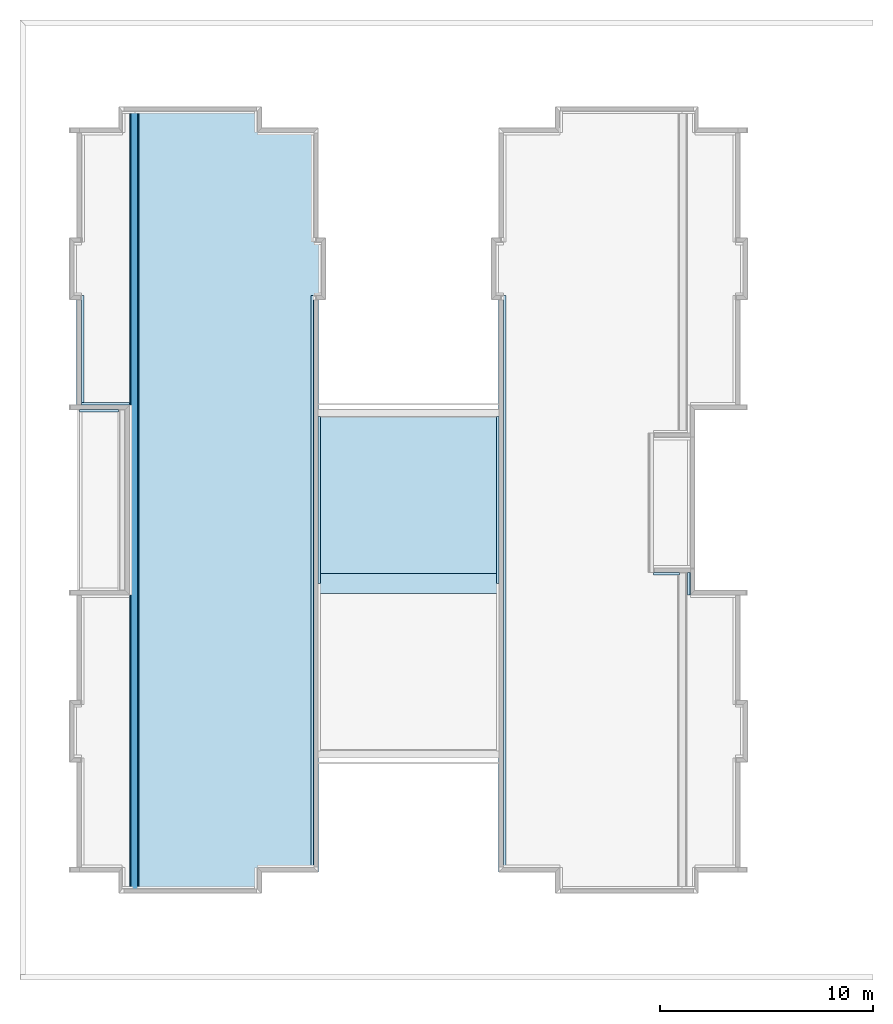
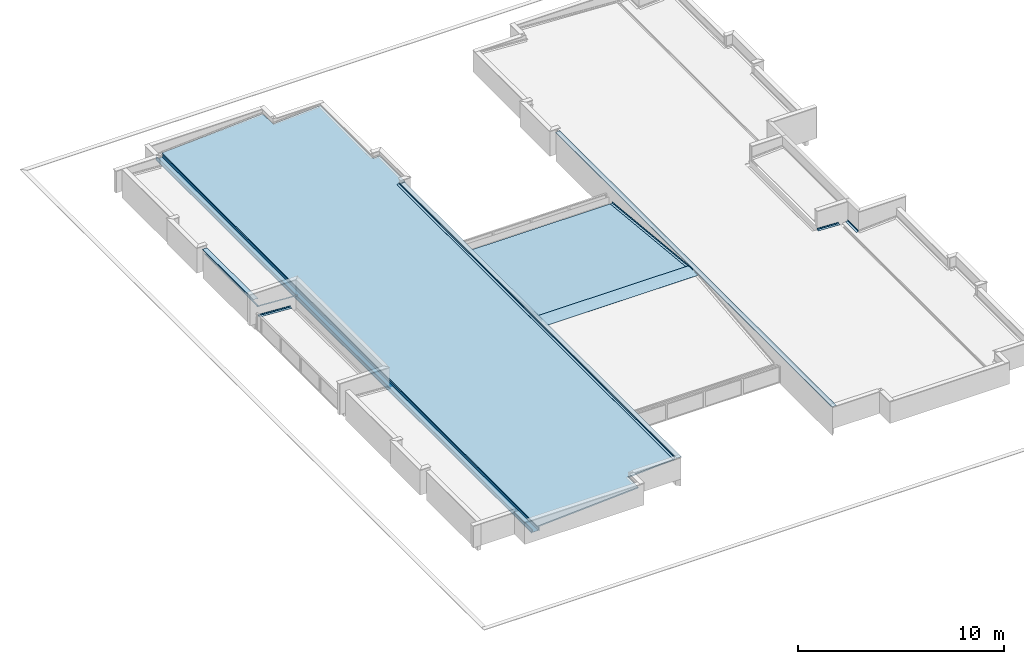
# One storey, part 11 of 25: 16 roofs.
"""IFC4 building model written with IfcOpenShell, lengths in metres."""

from ifc_helpers import new_model, entity, si_unit, converted_unit, derived_unit, direction, frame, origin_with_axes, place, context, subcontext, project, spatial, line, arc, indexed_curve, outline, composite_profile, extrude, clip, halfspace, material, material_profile, profile_set, type_object, element, save


model = new_model("IFC4")

# Units and contexts
model_context = context("Model", 3, precision=1e-05, world=origin_with_axes(), true_north=direction((0.0, 1.0)))
body_context = subcontext(model_context, "Body", "Model", "MODEL_VIEW")
ifc_project = project(units=[si_unit("LENGTHUNIT", "METRE"), si_unit("AREAUNIT", "SQUARE_METRE"), si_unit("VOLUMEUNIT", "CUBIC_METRE"), converted_unit("PLANEANGLEUNIT", "DEGREE", entity("IfcPlaneAngleMeasure", 0.0174532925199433), si_unit("PLANEANGLEUNIT", "RADIAN"), dimensions=[0, 0, 0, 0, 0, 0, 0]), converted_unit("TIMEUNIT", "Year", entity("IfcTimeMeasure", 31557600.0), si_unit("TIMEUNIT", "SECOND"), dimensions=[0, 0, 1, 0, 0, 0, 0]), si_unit("MASSUNIT", "GRAM", prefix="KILO"), si_unit("THERMODYNAMICTEMPERATUREUNIT", "DEGREE_CELSIUS"), si_unit("LUMINOUSINTENSITYUNIT", "LUMEN"), si_unit("ENERGYUNIT", "JOULE", prefix="MEGA"), derived_unit("THERMALCONDUCTANCEUNIT", [(si_unit("POWERUNIT", "WATT"), 1), (si_unit("LENGTHUNIT", "METRE"), -1), (si_unit("THERMODYNAMICTEMPERATUREUNIT", "KELVIN"), -1)]), derived_unit("SPECIFICHEATCAPACITYUNIT", [(si_unit("ENERGYUNIT", "JOULE"), 1), (si_unit("MASSUNIT", "GRAM", prefix="KILO"), -1), (si_unit("THERMODYNAMICTEMPERATUREUNIT", "KELVIN"), -1)]), derived_unit("MASSDENSITYUNIT", [(si_unit("MASSUNIT", "GRAM", prefix="KILO"), 1), (si_unit("VOLUMEUNIT", "CUBIC_METRE"), -1)])], contexts=[model_context])

# Site, building, storey
site_placement = place(None, origin_with_axes())
site = spatial("IfcSite", under=ifc_project, at=site_placement, Name="PADRÃO", CompositionType="ELEMENT")
building_placement = place(site_placement, origin_with_axes())
building = spatial("IfcBuilding", under=site, at=building_placement, Name="CRECHE PRÉ-ESCOLA TIPO 2", CompositionType="ELEMENT")
storey_placement = place(building_placement, frame((0.0, 0.0, 3.26), z_axis=(0.0, 0.0, 1.0), x_axis=(1.0, 0.0, 0.0)))
storey = spatial("IfcBuildingStorey", under=building, at=storey_placement, Name="COBERTURA", CompositionType="ELEMENT", Elevation=3.26)

# Roofs
ifc_material_1 = material(Name="TELHA METÁLICA TERMOACÚSTICA")
roof_type_1 = type_object("IfcRoofType", Name="TELHA METÁLICA TERMOACÚSTICA 70", PredefinedType="NOTDEFINED")
roof_1_placement = place(storey_placement, frame((-34.5396122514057, 4.25013679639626, 0.606411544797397), z_axis=(0.0, 0.0, 1.0), x_axis=(0.0, 1.0, 0.0)))
element("IfcRoof", 1, at=roof_1_placement, inside=storey, type_object=roof_type_1, material=ifc_material_1, Name="Cobert.-004", PredefinedType="NOTDEFINED", context=body_context, shape_type="SweptSolid", body=[
    extrude(outline(indexed_curve([(36.4998642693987, -5.66947835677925), (36.4998642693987, -0.0042), (0.0, -0.00420000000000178), (0.0, -5.66947849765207), (0.999934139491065, -5.66947849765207), (0.999934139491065, -8.32426904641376), (27.8500521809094, -8.32426904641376), (27.8500521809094, -8.67546811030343), (30.3500522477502, -8.67546811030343), (30.3500522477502, -8.32426904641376), (35.4997986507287, -8.32426904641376), (35.4997986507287, -5.66947835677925)], segments=[line(1, 2, 3, 4, 5, 6, 7, 8, 9, 10, 11, 12, 1)])), frame((0.0, 0.0, 0.0), z_axis=(0.0, 0.0598922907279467, 0.998204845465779), x_axis=(1.0, 0.0, 0.0)), (0.0, 0.0, 1.0), 0.07),
])
roof_2_placement = place(storey_placement, frame((-17.5400505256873, 26.4301366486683, 0.352926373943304), z_axis=(0.0, 0.0, 1.0), x_axis=(-1.0, 0.0, 0.0)))
element("IfcRoof", 2, at=roof_2_placement, inside=storey, type_object=roof_type_1, material=ifc_material_1, Name="Cobert.-005", PredefinedType="NOTDEFINED", context=body_context, shape_type="SweptSolid", body=[
    extrude(outline(indexed_curve([(8.50004582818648, 0.007), (8.4999668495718, 7.89962199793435), (0.0, 7.90117785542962), (0.0, 0.007)], segments=[line(1, 2, 3, 4, 1)])), frame((0.0, 0.0, 0.0), z_axis=(0.0, -0.0995037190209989, 0.995037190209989), x_axis=(1.0, 0.0, 0.0)), (0.0, 0.0, 1.0), 0.07),
])
ifc_material_2 = material(Name="RUFO EM CHAPA DE AÇO GALVANIZADO")
ifc_material_profile_1 = material_profile(ifc_material_2, outline(indexed_curve([(-0.123242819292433, 0.0), (-0.123136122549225, -0.000994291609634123), (-0.01, 0.0111462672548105), (-0.01, 0.0811462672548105), (0.000794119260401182, 0.0919771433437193), (8.58116060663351e-05, 0.0926830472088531), (-0.011, 0.0815594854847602), (-0.011, 0.0120446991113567), (-0.123136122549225, 1.14495535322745e-05)], segments=[line(1, 2, 3, 4, 5, 6, 7, 8, 9, 1)])), Name="RUFO EM CHAPA DE AÇO GALVANIZADO")
ifc_profile_set_1 = profile_set([ifc_material_profile_1], Name="FNDE-Rufo")
roof_type_2 = type_object("IfcRoofType", Name="FNDE-Rufo 124 x 94", PredefinedType="NOTDEFINED")
roof_3_placement = place(storey_placement, frame((-9.08529996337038, 19.100155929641, 0.697225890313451), z_axis=(0.0, 0.0, 1.0), x_axis=(0.0, 1.0, 0.0)))
element("IfcRoof", 3, at=roof_3_placement, inside=storey, type_object=roof_type_2, material=ifc_profile_set_1, Name="V01", PredefinedType="NOTDEFINED", context=body_context, shape_type="Clipping", body=[
    clip(clip(extrude(outline(indexed_curve([(-0.123242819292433, 0.0), (-0.123136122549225, -0.000994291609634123), (-0.01, 0.0111462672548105), (-0.01, 0.0811462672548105), (0.000794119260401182, 0.0919771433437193), (8.58116060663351e-05, 0.0926830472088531), (-0.011, 0.0815594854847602), (-0.011, 0.0120446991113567), (-0.123136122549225, 1.14495535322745e-05)], segments=[line(1, 2, 3, 4, 5, 6, 7, 8, 9, 1)])), frame((0.0, 1.21380182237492, 0.0593191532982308), z_axis=(0.0, -0.998807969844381, -0.0488122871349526), x_axis=(1.0, 0.0, 0.0)), (0.0, 0.0, 1.0), 1.22382305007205), halfspace(frame((0.0, 0.0, 0.0), z_axis=(0.0, 1.0, 0.0), x_axis=(0.0, 0.0, 1.0)), True)), halfspace(frame((0.0, 1.20523942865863, 0.0), z_axis=(0.0, -1.0, 0.0), x_axis=(0.0, 0.0, -1.0)), True)),
])
roof_4_placement = place(storey_placement, frame((-8.57057334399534, 18.0501544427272, 0.672070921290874), z_axis=(0.0, 0.0, 1.0), x_axis=(1.0, 0.0, 0.0)))
element("IfcRoof", 4, at=roof_4_placement, inside=storey, type_object=roof_type_2, material=ifc_profile_set_1, Name="V01", PredefinedType="NOTDEFINED", context=body_context, shape_type="SweptSolid", body=[
    extrude(outline(indexed_curve([(-0.123242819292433, 0.0), (-0.123136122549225, -0.000994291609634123), (-0.01, 0.0111462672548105), (-0.01, 0.0811462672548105), (0.000794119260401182, 0.0919771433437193), (8.58116060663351e-05, 0.0926830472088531), (-0.011, 0.0815594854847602), (-0.011, 0.0120446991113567), (-0.123136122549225, 1.14495535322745e-05)], segments=[line(1, 2, 3, 4, 5, 6, 7, 8, 9, 1)])), frame((0.0, 1.05000148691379, 0.0), z_axis=(0.0, -1.0, 0.0), x_axis=(1.0, 0.0, 0.0)), (0.0, 0.0, 1.0), 1.05000148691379),
])
roof_5_placement = place(storey_placement, frame((-37.1436939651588, 26.9500035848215, 0.801382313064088), z_axis=(0.0, 0.0, 1.0), x_axis=(1.0, 0.0, 0.0)))
element("IfcRoof", 5, at=roof_5_placement, inside=storey, type_object=roof_type_2, material=ifc_profile_set_1, Name="V01", PredefinedType="NOTDEFINED", context=body_context, shape_type="SweptSolid", body=[
    extrude(outline(indexed_curve([(-0.123242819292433, 0.0), (-0.123136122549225, -0.000994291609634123), (-0.01, 0.0111462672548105), (-0.01, 0.0811462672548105), (0.000794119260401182, 0.0919771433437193), (8.58116060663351e-05, 0.0926830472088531), (-0.011, 0.0815594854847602), (-0.011, 0.0120446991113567), (-0.123136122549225, 1.14495535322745e-05)], segments=[line(1, 2, 3, 4, 5, 6, 7, 8, 9, 1)])), frame((0.0, 5.14993254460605, 0.0), z_axis=(0.0, 1.0, 0.0), x_axis=(-1.0, 0.0, 0.0)), (0.0, 0.0, -1.0), 5.14993254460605),
])
roof_6_placement = place(storey_placement, frame((-37.1436939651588, 26.9500035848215, 0.801382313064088), z_axis=(0.0, 0.0, 1.0), x_axis=(0.0, -1.0, 0.0)))
element("IfcRoof", 6, at=roof_6_placement, inside=storey, type_object=roof_type_2, material=ifc_profile_set_1, Name="V01", PredefinedType="NOTDEFINED", context=body_context, shape_type="Clipping", body=[
    clip(clip(extrude(outline(indexed_curve([(-0.123242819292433, 0.0), (-0.123136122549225, -0.000994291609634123), (-0.01, 0.0111462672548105), (-0.01, 0.0811462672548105), (0.000794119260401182, 0.0919771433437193), (8.58116060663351e-05, 0.0926830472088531), (-0.011, 0.0815594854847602), (-0.011, 0.0120446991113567), (-0.123136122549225, 1.14495535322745e-05)], segments=[line(1, 2, 3, 4, 5, 6, 7, 8, 9, 1)])), frame((0.0, 2.26113105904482, -0.135667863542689), z_axis=(0.0, -0.998204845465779, 0.0598922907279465), x_axis=(1.0, 0.0, 0.0)), (0.0, 0.0, 1.0), 2.27572232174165), halfspace(frame((0.0, 0.0, 0.0), z_axis=(0.0, 1.0, 0.0), x_axis=(0.0, 0.0, 1.0)), True)), halfspace(frame((0.0, 2.2506250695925, 0.0), z_axis=(0.0, -1.0, 0.0), x_axis=(0.0, 0.0, -1.0)), True)),
])
roof_7_placement = place(storey_placement, frame((-37.2401019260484, 26.750002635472, 0.435007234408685), z_axis=(0.0, 0.0, 1.0), x_axis=(0.0, -1.0, 0.0)))
element("IfcRoof", 7, at=roof_7_placement, inside=storey, type_object=roof_type_2, material=ifc_profile_set_1, Name="V01", PredefinedType="NOTDEFINED", context=body_context, shape_type="Clipping", body=[
    clip(clip(extrude(outline(indexed_curve([(-0.123242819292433, 0.0), (-0.123136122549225, -0.000994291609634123), (-0.01, 0.0111462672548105), (-0.01, 0.0811462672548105), (0.000794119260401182, 0.0919771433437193), (8.58116060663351e-05, 0.0926830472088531), (-0.011, 0.0815594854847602), (-0.011, 0.0120446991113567), (-0.123136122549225, 1.14495535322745e-05)], segments=[line(1, 2, 3, 4, 5, 6, 7, 8, 9, 1)])), frame((0.0, 1.84510533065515, -0.109982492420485), z_axis=(0.0, 0.998228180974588, -0.0595020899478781), x_axis=(-1.0, 0.0, 0.0)), (0.0, 0.0, -1.0), 1.85883639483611), halfspace(frame((0.0, 0.0, 0.0), z_axis=(0.0, 1.0, 0.0), x_axis=(0.0, 0.0, 1.0)), True)), halfspace(frame((0.0, 1.8346677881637, 0.0), z_axis=(0.0, -1.0, 0.0), x_axis=(0.0, 0.0, -1.0)), True)),
])
roof_8_placement = place(storey_placement, frame((-17.3400506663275, 32.1001883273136, 1.17333038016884), z_axis=(0.0, 0.0, 1.0), x_axis=(-0.999999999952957, -9.69983402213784e-06, 0.0)))
element("IfcRoof", 8, at=roof_8_placement, inside=storey, type_object=roof_type_2, material=ifc_profile_set_1, Name="V02", PredefinedType="NOTDEFINED", context=body_context, shape_type="Clipping", body=[
    clip(clip(extrude(outline(indexed_curve([(-0.123242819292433, 0.0), (-0.123136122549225, -0.000994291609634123), (-0.01, 0.0111462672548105), (-0.01, 0.0811462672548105), (0.000794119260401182, 0.0919771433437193), (8.58116060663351e-05, 0.0926830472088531), (-0.011, 0.0815594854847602), (-0.011, 0.0120446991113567), (-0.123136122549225, 1.14495535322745e-05)], segments=[line(1, 2, 3, 4, 5, 6, 7, 8, 9, 1)])), frame((0.0, 26.8499971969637, 0.00422564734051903), z_axis=(0.0, -0.999999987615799, -0.000157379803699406), x_axis=(1.0, 0.0, 0.0)), (0.0, 0.0, 1.0), 26.8500251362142), halfspace(frame((0.0, 0.0, 0.0), z_axis=(0.0, 1.0, 0.0), x_axis=(0.0, 0.0, 1.0)), True)), halfspace(frame((0.0, 26.8499695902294, 0.0), z_axis=(0.0, -1.0, 0.0), x_axis=(0.0, 0.0, -1.0)), True)),
])
roof_9_placement = place(storey_placement, frame((-26.0400963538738, 26.4301366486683, 0.423275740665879), z_axis=(0.0, 0.0, 1.0), x_axis=(-0.999999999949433, -1.00565471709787e-05, 0.0)))
element("IfcRoof", 9, at=roof_9_placement, inside=storey, type_object=roof_type_2, material=ifc_profile_set_1, Name="V09", PredefinedType="NOTDEFINED", context=body_context, shape_type="Clipping", body=[
    clip(clip(extrude(outline(indexed_curve([(-0.123242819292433, 0.0), (-0.123136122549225, -0.000994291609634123), (-0.01, 0.0111462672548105), (-0.01, 0.0811462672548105), (0.000794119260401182, 0.0919771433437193), (8.58116060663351e-05, 0.0926830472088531), (-0.011, 0.0815594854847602), (-0.011, 0.0120446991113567), (-0.123136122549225, 1.14495535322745e-05)], segments=[line(1, 2, 3, 4, 5, 6, 7, 8, 9, 1)])), frame((0.0, 7.86828593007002, 0.786983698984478), z_axis=(0.0, -0.995035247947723, -0.0995231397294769), x_axis=(1.0, 0.0, 0.0)), (0.0, 0.0, 1.0), 7.92508985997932), halfspace(frame((0.0, 0.0, 0.0), z_axis=(0.0, 1.0, 0.0), x_axis=(0.0, 0.0, 1.0)), True)), halfspace(frame((0.0, 7.85082810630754, 0.0), z_axis=(0.0, -1.0, 0.0), x_axis=(0.0, 0.0, -1.0)), True)),
])
roof_10_placement = place(storey_placement, frame((-26.2385567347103, 5.25000111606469, 1.17167117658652), z_axis=(0.0, 0.0, 1.0), x_axis=(0.999999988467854, -0.00015186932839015, 0.0)))
element("IfcRoof", 10, at=roof_10_placement, inside=storey, type_object=roof_type_2, material=ifc_profile_set_1, Name="V11", PredefinedType="NOTDEFINED", context=body_context, shape_type="Clipping", body=[
    clip(clip(extrude(outline(indexed_curve([(-0.123242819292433, 0.0), (-0.123136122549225, -0.000994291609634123), (-0.01, 0.0111462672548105), (-0.01, 0.0811462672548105), (0.000794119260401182, 0.0919771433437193), (8.58116060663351e-05, 0.0926830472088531), (-0.011, 0.0815594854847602), (-0.011, 0.0120446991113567), (-0.123136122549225, 1.14495535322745e-05)], segments=[line(1, 2, 3, 4, 5, 6, 7, 8, 9, 1)])), frame((0.0, 26.8502089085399, 0.00317425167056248), z_axis=(0.0, -0.999999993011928, -0.000118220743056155), x_axis=(1.0, 0.0, 0.0)), (0.0, 0.0, 1.0), 26.8502298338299), halfspace(frame((0.0, 0.0, 0.0), z_axis=(0.0, 1.0, 0.0), x_axis=(0.0, 0.0, 1.0)), True)), halfspace(frame((0.0, 26.8501881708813, 0.0), z_axis=(0.0, -1.0, 0.0), x_axis=(0.0, 0.0, -1.0)), True)),
])
roof_11_placement = place(storey_placement, frame((-17.5400505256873, 18.5751360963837, 1.20877555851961), z_axis=(0.0, 0.0, 1.0), x_axis=(1.0, 0.0, 0.0)))
element("IfcRoof", 11, at=roof_11_placement, inside=storey, type_object=roof_type_2, material=ifc_profile_set_1, Name="V08", PredefinedType="NOTDEFINED", context=body_context, shape_type="Clipping", body=[
    clip(clip(extrude(outline(indexed_curve([(-0.123242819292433, 0.0), (-0.123136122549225, -0.000994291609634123), (-0.01, 0.0111462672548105), (-0.01, 0.0811462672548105), (0.000794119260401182, 0.0919771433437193), (8.58116060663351e-05, 0.0926830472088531), (-0.011, 0.0815594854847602), (-0.011, 0.0120446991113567), (-0.123136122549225, 1.14495535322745e-05)], segments=[line(1, 2, 3, 4, 5, 6, 7, 8, 9, 1)])), frame((0.0, 7.87245496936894, -0.787245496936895), z_axis=(0.0, -0.995037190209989, 0.099503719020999), x_axis=(1.0, 0.0, 0.0)), (0.0, 0.0, 1.0), 7.92926079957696), halfspace(frame((0.0, 0.0, 0.0), z_axis=(0.0, 1.0, 0.0), x_axis=(0.0, 0.0, 1.0)), True)), halfspace(frame((0.0, 7.85500055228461, 0.0), z_axis=(0.0, -1.0, 0.0), x_axis=(0.0, 0.0, -1.0)), True)),
])
ifc_material_3 = material(Name="PINGADEIRA EM CHAPA DE AÇO GALVANIZADO")
ifc_material_profile_2 = material_profile(ifc_material_3, outline(indexed_curve([(0.00496259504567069, -0.0184313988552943), (0.0250000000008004, -0.03), (0.0250000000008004, 0.01), (-0.225020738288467, 0.01), (-0.22503740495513, -0.03), (-0.205, -0.0184313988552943), (-0.2055, -0.0175653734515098), (-0.224036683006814, -0.0282675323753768), (-0.224021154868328, 0.009), (0.0240000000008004, 0.009), (0.0240000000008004, -0.0282679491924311), (0.00546259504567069, -0.0175653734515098)], segments=[line(1, 2, 3, 4, 5, 6, 7, 8, 9, 10, 11, 12, 1)])), Name="PINGADEIRA EM CHAPA DE AÇO GALVANIZADO")
ifc_profile_set_2 = profile_set([ifc_material_profile_2], Name="FNDE-Pingadeira em chapa de aço galvanizado")
roof_type_3 = type_object("IfcRoofType", Name="FNDE-Pingadeira em chapa de aço galvanizado 250 x 40", PredefinedType="NOTDEFINED")
roof_12_placement = place(storey_placement, frame((-37.3401040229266, 31.9000019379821, 1.31), z_axis=(0.0, 0.0, 1.0), x_axis=(-0.999999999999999, -3.33213644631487e-08, 0.0)))
element("IfcRoof", 12, at=roof_12_placement, inside=storey, type_object=roof_type_3, material=ifc_profile_set_2, Name="V01", PredefinedType="NOTDEFINED", context=body_context, shape_type="SweptSolid", body=[
    extrude(outline(indexed_curve([(0.00496259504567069, -0.0184313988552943), (0.0250000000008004, -0.03), (0.0250000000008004, 0.01), (-0.225020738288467, 0.01), (-0.22503740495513, -0.03), (-0.205, -0.0184313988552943), (-0.2055, -0.0175653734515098), (-0.224036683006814, -0.0282675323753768), (-0.224021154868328, 0.009), (0.0240000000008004, 0.009), (0.0240000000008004, -0.0282679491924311), (0.00546259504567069, -0.0175653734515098)], segments=[line(1, 2, 3, 4, 5, 6, 7, 8, 9, 10, 11, 12, 1)])), frame((0.0, 4.94999930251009, 0.0), z_axis=(0.0, -1.0, 0.0), x_axis=(1.0, 0.0, 0.0)), (0.0, 0.0, 1.0), 4.94999930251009),
])
roof_13_placement = place(storey_placement, frame((-26.0400963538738, 5.04997841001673, 1.31), z_axis=(0.0, 0.0, 1.0), x_axis=(1.0, 0.0, 0.0)))
element("IfcRoof", 13, at=roof_13_placement, inside=storey, type_object=roof_type_3, material=ifc_profile_set_2, Name="V03", PredefinedType="NOTDEFINED", context=body_context, shape_type="SweptSolid", body=[
    extrude(outline(indexed_curve([(0.00496259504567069, -0.0184313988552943), (0.0250000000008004, -0.03), (0.0250000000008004, 0.01), (-0.225020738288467, 0.01), (-0.22503740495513, -0.03), (-0.205, -0.0184313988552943), (-0.2055, -0.0175653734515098), (-0.224036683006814, -0.0282675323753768), (-0.224021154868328, 0.009), (0.0240000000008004, 0.009), (0.0240000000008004, -0.0282679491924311), (0.00546259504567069, -0.0175653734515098)], segments=[line(1, 2, 3, 4, 5, 6, 7, 8, 9, 10, 11, 12, 1)])), frame((0.0, 26.8502105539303, 0.0), z_axis=(0.0, -1.0, 0.0), x_axis=(1.0, 0.0, 0.0)), (0.0, 0.0, 1.0), 26.8502105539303),
])
roof_14_placement = place(storey_placement, frame((-17.5400505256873, 31.9001883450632, 1.31), z_axis=(0.0, 0.0, 1.0), x_axis=(-1.0, 0.0, 0.0)))
element("IfcRoof", 14, at=roof_14_placement, inside=storey, type_object=roof_type_3, material=ifc_profile_set_2, Name="V02", PredefinedType="NOTDEFINED", context=body_context, shape_type="SweptSolid", body=[
    extrude(outline(indexed_curve([(0.00496259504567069, -0.0184313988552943), (0.0250000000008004, -0.03), (0.0250000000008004, 0.01), (-0.225020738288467, 0.01), (-0.22503740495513, -0.03), (-0.205, -0.0184313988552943), (-0.2055, -0.0175653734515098), (-0.224036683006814, -0.0282675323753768), (-0.224021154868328, 0.009), (0.0240000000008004, 0.009), (0.0240000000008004, -0.0282679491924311), (0.00546259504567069, -0.0175653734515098)], segments=[line(1, 2, 3, 4, 5, 6, 7, 8, 9, 10, 11, 12, 1)])), frame((0.0, 26.8500324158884, 0.0), z_axis=(0.0, -1.0, 0.0), x_axis=(1.0, 0.0, 0.0)), (0.0, 0.0, 1.0), 26.8500324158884),
])
ifc_material_4 = material(Name="CUMEEIRA")
ifc_material_profile_3 = material_profile(ifc_material_4, outline(indexed_curve([(-0.467490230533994, -0.0228391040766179), (0.0, 0.00500886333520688), (0.467490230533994, -0.022839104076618), (0.467787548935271, -0.0178479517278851), (0.0, 0.0100177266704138), (-0.467787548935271, -0.017847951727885)], segments=[line(1, 2, 3, 4, 5, 6, 1)])), Name="CUMEEIRA")
ifc_profile_set_3 = profile_set([ifc_material_profile_3], Name="FNDE-Cumeeira")
roof_type_4 = type_object("IfcRoofType", Name="FNDE-Cumeeira 936 x 33", PredefinedType="NOTDEFINED")
roof_15_placement = place(storey_placement, frame((-26.0400173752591, 18.5766842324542, 1.20877555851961), z_axis=(0.0, 0.0, 1.0), x_axis=(-0.000182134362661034, -0.999999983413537, 0.0)))
element("IfcRoof", 15, at=roof_15_placement, inside=storey, type_object=roof_type_4, material=ifc_profile_set_3, Name="V05", PredefinedType="NOTDEFINED", context=body_context, shape_type="SweptSolid", body=[
    extrude(outline(indexed_curve([(-0.467490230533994, -0.0228391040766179), (0.0, 0.00500886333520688), (0.467490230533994, -0.022839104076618), (0.467787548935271, -0.0178479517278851), (0.0, 0.0100177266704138), (-0.467787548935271, -0.017847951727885)], segments=[line(1, 2, 3, 4, 5, 6, 1)])), frame((0.0, 8.49996699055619, 0.0), z_axis=(0.0, -1.0, 0.0), x_axis=(1.0, 0.0, 0.0)), (0.0, 0.0, 1.0), 8.49996699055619),
])
ifc_material_5 = material(Name="CALHA EM CHAPA DE AÇO GALVANIZADO")
ifc_material_profile_4 = material_profile(ifc_material_5, outline(indexed_curve([(0.201344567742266, -0.0546026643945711), (0.211344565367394, -0.0546026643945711), (0.211344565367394, -0.0254650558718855), (0.201344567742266, -0.0254649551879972)], segments=[line(1, 2, 3, 4, 1)])), Name="CALHA EM CHAPA DE AÇO GALVANIZADO 1")
ifc_material_profile_5 = material_profile(ifc_material_5, outline(indexed_curve([(0.211344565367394, 0.170194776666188), (0.201344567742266, 0.170194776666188), (0.201344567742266, -0.000467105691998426), (0.211344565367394, -0.000467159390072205)], segments=[line(1, 2, 3, 4, 1)])), Name="CALHA EM CHAPA DE AÇO GALVANIZADO 1")
ifc_material_profile_6 = material_profile(ifc_material_5, outline(indexed_curve([(-0.210177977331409, -0.0642311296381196), (-0.200177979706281, -0.0642311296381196), (-0.200177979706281, -0.0254630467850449), (-0.210177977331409, -0.0254630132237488)], segments=[line(1, 2, 3, 4, 1)])), Name="CALHA EM CHAPA DE AÇO GALVANIZADO 2")
ifc_material_profile_7 = material_profile(ifc_material_5, outline(indexed_curve([(-0.200177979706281, 0.160718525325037), (-0.210177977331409, 0.160718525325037), (-0.210177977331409, -0.00046508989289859), (-0.200177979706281, -0.000465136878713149)], segments=[line(1, 2, 3, 4, 1)])), Name="CALHA EM CHAPA DE AÇO GALVANIZADO 2")
ifc_material_profile_8 = material_profile(ifc_material_5, outline(indexed_curve([(-0.189999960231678, 0.146532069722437), (-0.189999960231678, -0.000465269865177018), (-0.187999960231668, -0.000465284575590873), (-0.187999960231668, 0.146532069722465), (-0.187707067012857, 0.147239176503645), (-0.186999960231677, 0.147532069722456), (-0.177673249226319, 0.147532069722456), (-0.177032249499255, 0.147299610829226), (-0.176689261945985, 0.146710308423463), (-0.152008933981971, -0.000465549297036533), (-0.15, -0.000465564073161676), (-0.174704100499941, 0.146960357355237), (-0.175709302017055, 0.148799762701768), (-0.177673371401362, 0.149532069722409), (-0.186999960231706, 0.149532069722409), (-0.189121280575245, 0.148653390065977)], segments=[line(1, 2, 3, 4), arc(4, 5, 6), line(6, 7), arc(7, 8, 9), line(9, 10, 11, 12), arc(12, 13, 14), line(14, 15), arc(15, 16, 1)])), Name="CALHA EM CHAPA DE AÇO GALVANIZADO 3")
ifc_material_profile_9 = material_profile(ifc_material_5, outline(indexed_curve([(-0.225177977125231, -0.000465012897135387), (-0.225177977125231, -0.0254629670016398), (-0.210177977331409, -0.0254630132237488), (-0.200177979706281, -0.0254630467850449), (-0.0475010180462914, -0.0254635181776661), (0.0475010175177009, -0.0254635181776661), (0.201344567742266, -0.0254649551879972), (0.211344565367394, -0.0254650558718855), (0.225273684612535, -0.0254651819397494), (0.225273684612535, -0.000467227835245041), (0.211344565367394, -0.000467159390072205), (0.201344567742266, -0.000467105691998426), (0.189999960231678, -0.000465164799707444), (0.187999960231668, -0.000465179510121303), (0.152008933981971, -0.000465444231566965), (0.15, -0.000465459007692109), (-0.15, -0.000465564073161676), (-0.152008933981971, -0.000465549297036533), (-0.187999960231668, -0.000465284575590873), (-0.189999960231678, -0.000465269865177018), (-0.200177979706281, -0.000465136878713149), (-0.210177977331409, -0.00046508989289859)], segments=[line(1, 2, 3, 4, 5, 6, 7, 8, 9, 10, 11, 12, 13, 14, 15, 16, 17, 18, 19, 20, 21, 22, 1)])), Name="CALHA EM CHAPA DE AÇO GALVANIZADO 4")
ifc_material_profile_10 = material_profile(ifc_material_5, outline(indexed_curve([(0.186999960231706, 0.149532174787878), (0.177673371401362, 0.149532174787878), (0.175709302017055, 0.148799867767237), (0.174704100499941, 0.146960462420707), (0.15, -0.000465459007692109), (0.152008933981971, -0.000465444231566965), (0.176689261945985, 0.146710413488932), (0.177032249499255, 0.147299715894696), (0.177673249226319, 0.147532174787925), (0.186999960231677, 0.147532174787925), (0.187707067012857, 0.147239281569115), (0.187999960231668, 0.146532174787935), (0.187999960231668, -0.000465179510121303), (0.189999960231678, -0.000465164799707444), (0.189999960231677, 0.146532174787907), (0.189121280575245, 0.148653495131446)], segments=[line(1, 2), arc(2, 3, 4), line(4, 5, 6, 7), arc(7, 8, 9), line(9, 10), arc(10, 11, 12), line(12, 13, 14, 15), arc(15, 16, 1)])), Name="CALHA EM CHAPA DE AÇO GALVANIZADO 5")
ifc_profile_set_4 = profile_set([ifc_material_profile_4, ifc_material_profile_5, ifc_material_profile_6, ifc_material_profile_7, ifc_material_profile_8, ifc_material_profile_9, ifc_material_profile_10], Name="FNDE-Calha", composite=composite_profile([outline(indexed_curve([(0.201344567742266, -0.0546026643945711), (0.211344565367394, -0.0546026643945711), (0.211344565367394, -0.0254650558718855), (0.201344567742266, -0.0254649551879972)], segments=[line(1, 2, 3, 4, 1)])), outline(indexed_curve([(0.211344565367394, 0.170194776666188), (0.201344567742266, 0.170194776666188), (0.201344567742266, -0.000467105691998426), (0.211344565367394, -0.000467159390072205)], segments=[line(1, 2, 3, 4, 1)])), outline(indexed_curve([(-0.210177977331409, -0.0642311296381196), (-0.200177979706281, -0.0642311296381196), (-0.200177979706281, -0.0254630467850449), (-0.210177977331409, -0.0254630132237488)], segments=[line(1, 2, 3, 4, 1)])), outline(indexed_curve([(-0.200177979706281, 0.160718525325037), (-0.210177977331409, 0.160718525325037), (-0.210177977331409, -0.00046508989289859), (-0.200177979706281, -0.000465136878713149)], segments=[line(1, 2, 3, 4, 1)])), outline(indexed_curve([(-0.189999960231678, 0.146532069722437), (-0.189999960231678, -0.000465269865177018), (-0.187999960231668, -0.000465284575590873), (-0.187999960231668, 0.146532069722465), (-0.187707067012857, 0.147239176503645), (-0.186999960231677, 0.147532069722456), (-0.177673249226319, 0.147532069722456), (-0.177032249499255, 0.147299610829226), (-0.176689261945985, 0.146710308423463), (-0.152008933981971, -0.000465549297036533), (-0.15, -0.000465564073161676), (-0.174704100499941, 0.146960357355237), (-0.175709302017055, 0.148799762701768), (-0.177673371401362, 0.149532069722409), (-0.186999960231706, 0.149532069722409), (-0.189121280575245, 0.148653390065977)], segments=[line(1, 2, 3, 4), arc(4, 5, 6), line(6, 7), arc(7, 8, 9), line(9, 10, 11, 12), arc(12, 13, 14), line(14, 15), arc(15, 16, 1)])), outline(indexed_curve([(-0.225177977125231, -0.000465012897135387), (-0.225177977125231, -0.0254629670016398), (-0.210177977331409, -0.0254630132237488), (-0.200177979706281, -0.0254630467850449), (-0.0475010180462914, -0.0254635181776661), (0.0475010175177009, -0.0254635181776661), (0.201344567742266, -0.0254649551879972), (0.211344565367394, -0.0254650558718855), (0.225273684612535, -0.0254651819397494), (0.225273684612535, -0.000467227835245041), (0.211344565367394, -0.000467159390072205), (0.201344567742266, -0.000467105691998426), (0.189999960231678, -0.000465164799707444), (0.187999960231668, -0.000465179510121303), (0.152008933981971, -0.000465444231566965), (0.15, -0.000465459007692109), (-0.15, -0.000465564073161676), (-0.152008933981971, -0.000465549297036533), (-0.187999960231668, -0.000465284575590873), (-0.189999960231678, -0.000465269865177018), (-0.200177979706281, -0.000465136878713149), (-0.210177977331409, -0.00046508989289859)], segments=[line(1, 2, 3, 4, 5, 6, 7, 8, 9, 10, 11, 12, 13, 14, 15, 16, 17, 18, 19, 20, 21, 22, 1)])), outline(indexed_curve([(0.186999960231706, 0.149532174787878), (0.177673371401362, 0.149532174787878), (0.175709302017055, 0.148799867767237), (0.174704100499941, 0.146960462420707), (0.15, -0.000465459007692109), (0.152008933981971, -0.000465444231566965), (0.176689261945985, 0.146710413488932), (0.177032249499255, 0.147299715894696), (0.177673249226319, 0.147532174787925), (0.186999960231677, 0.147532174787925), (0.187707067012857, 0.147239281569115), (0.187999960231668, 0.146532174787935), (0.187999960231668, -0.000465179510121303), (0.189999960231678, -0.000465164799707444), (0.189999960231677, 0.146532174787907), (0.189121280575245, 0.148653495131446)], segments=[line(1, 2), arc(2, 3, 4), line(4, 5, 6, 7), arc(7, 8, 9), line(9, 10), arc(10, 11, 12), line(12, 13, 14, 15), arc(15, 16, 1)]))]))
roof_type_5 = type_object("IfcRoofType", Name="FNDE-Calha 450 x 234", PredefinedType="NOTDEFINED")
roof_16_placement = place(storey_placement, frame((-34.6560542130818, 4.25015619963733, 0.41521913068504), z_axis=(0.0, 0.0, 1.0), x_axis=(1.0, 0.0, 0.0)))
element("IfcRoof", 16, at=roof_16_placement, inside=storey, type_object=roof_type_5, material=ifc_profile_set_4, Name="V01", PredefinedType="NOTDEFINED", context=body_context, shape_type="SweptSolid", body=[
    extrude(composite_profile([outline(indexed_curve([(0.201344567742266, -0.0546026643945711), (0.211344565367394, -0.0546026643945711), (0.211344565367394, -0.0254650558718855), (0.201344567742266, -0.0254649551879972)], segments=[line(1, 2, 3, 4, 1)])), outline(indexed_curve([(0.211344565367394, 0.170194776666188), (0.201344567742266, 0.170194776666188), (0.201344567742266, -0.000467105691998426), (0.211344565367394, -0.000467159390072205)], segments=[line(1, 2, 3, 4, 1)])), outline(indexed_curve([(-0.210177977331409, -0.0642311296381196), (-0.200177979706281, -0.0642311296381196), (-0.200177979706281, -0.0254630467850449), (-0.210177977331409, -0.0254630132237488)], segments=[line(1, 2, 3, 4, 1)])), outline(indexed_curve([(-0.200177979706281, 0.160718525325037), (-0.210177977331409, 0.160718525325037), (-0.210177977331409, -0.00046508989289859), (-0.200177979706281, -0.000465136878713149)], segments=[line(1, 2, 3, 4, 1)])), outline(indexed_curve([(-0.189999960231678, 0.146532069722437), (-0.189999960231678, -0.000465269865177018), (-0.187999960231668, -0.000465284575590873), (-0.187999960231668, 0.146532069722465), (-0.187707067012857, 0.147239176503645), (-0.186999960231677, 0.147532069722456), (-0.177673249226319, 0.147532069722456), (-0.177032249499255, 0.147299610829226), (-0.176689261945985, 0.146710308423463), (-0.152008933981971, -0.000465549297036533), (-0.15, -0.000465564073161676), (-0.174704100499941, 0.146960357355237), (-0.175709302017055, 0.148799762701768), (-0.177673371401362, 0.149532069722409), (-0.186999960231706, 0.149532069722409), (-0.189121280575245, 0.148653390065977)], segments=[line(1, 2, 3, 4), arc(4, 5, 6), line(6, 7), arc(7, 8, 9), line(9, 10, 11, 12), arc(12, 13, 14), line(14, 15), arc(15, 16, 1)])), outline(indexed_curve([(-0.225177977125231, -0.000465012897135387), (-0.225177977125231, -0.0254629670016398), (-0.210177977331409, -0.0254630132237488), (-0.200177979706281, -0.0254630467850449), (-0.0475010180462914, -0.0254635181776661), (0.0475010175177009, -0.0254635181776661), (0.201344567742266, -0.0254649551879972), (0.211344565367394, -0.0254650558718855), (0.225273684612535, -0.0254651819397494), (0.225273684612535, -0.000467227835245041), (0.211344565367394, -0.000467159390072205), (0.201344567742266, -0.000467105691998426), (0.189999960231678, -0.000465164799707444), (0.187999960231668, -0.000465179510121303), (0.152008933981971, -0.000465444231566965), (0.15, -0.000465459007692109), (-0.15, -0.000465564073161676), (-0.152008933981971, -0.000465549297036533), (-0.187999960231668, -0.000465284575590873), (-0.189999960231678, -0.000465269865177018), (-0.200177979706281, -0.000465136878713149), (-0.210177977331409, -0.00046508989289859)], segments=[line(1, 2, 3, 4, 5, 6, 7, 8, 9, 10, 11, 12, 13, 14, 15, 16, 17, 18, 19, 20, 21, 22, 1)])), outline(indexed_curve([(0.186999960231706, 0.149532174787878), (0.177673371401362, 0.149532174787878), (0.175709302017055, 0.148799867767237), (0.174704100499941, 0.146960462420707), (0.15, -0.000465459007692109), (0.152008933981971, -0.000465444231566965), (0.176689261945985, 0.146710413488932), (0.177032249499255, 0.147299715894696), (0.177673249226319, 0.147532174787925), (0.186999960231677, 0.147532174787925), (0.187707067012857, 0.147239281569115), (0.187999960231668, 0.146532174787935), (0.187999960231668, -0.000465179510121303), (0.189999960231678, -0.000465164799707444), (0.189999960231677, 0.146532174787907), (0.189121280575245, 0.148653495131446)], segments=[line(1, 2), arc(2, 3, 4), line(4, 5, 6, 7), arc(7, 8, 9), line(9, 10), arc(10, 11, 12), line(12, 13, 14, 15), arc(15, 16, 1)]))]), frame((0.0, 36.4998444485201, 0.0), z_axis=(0.0, -1.0, 0.0), x_axis=(1.0, 0.0, 0.0)), (0.0, 0.0, 1.0), 36.4998444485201),
])

save(model, "model.ifc")
